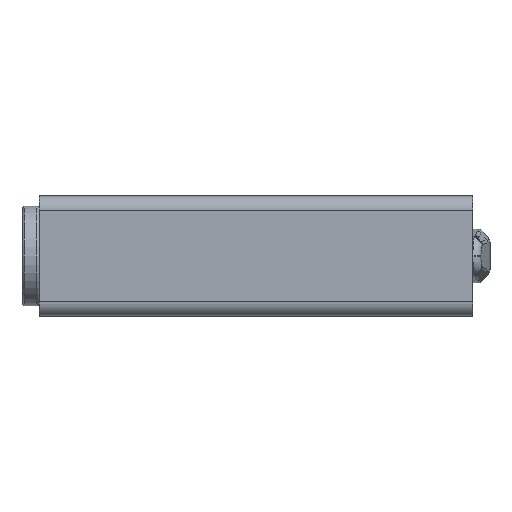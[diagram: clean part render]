
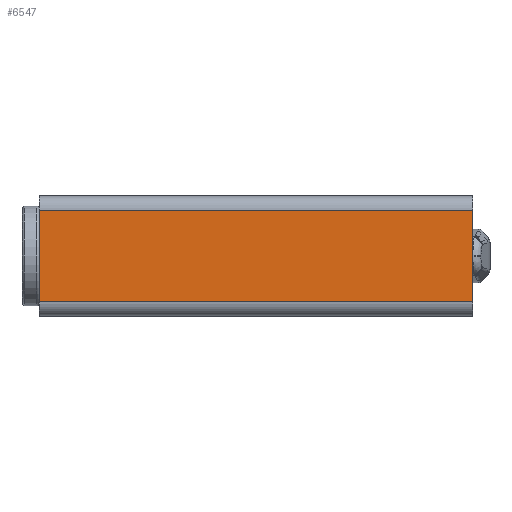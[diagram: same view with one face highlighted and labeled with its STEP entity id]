
A CAD part, front view. The second image highlights one B-rep face of the part: STEP entity #6547.
In plain terms, the highlighted planar face has unit normal (0, -1, 0).
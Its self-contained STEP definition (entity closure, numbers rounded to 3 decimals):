
#812 = EDGE_CURVE ( 'NONE', #89851, #82114, #32502, .T. ) ;
#2346 = LINE ( 'NONE', #2658, #53190 ) ;
#2658 = CARTESIAN_POINT ( 'NONE',  ( -36.154, 24.641, 3.707 ) ) ;
#6547 = ADVANCED_FACE ( 'NONE', ( #80476 ), #55515, .F. ) ;
#13326 = VECTOR ( 'NONE', #82465, 1000. ) ;
#16176 = CARTESIAN_POINT ( 'NONE',  ( -126.154, 24.641, 0.707 ) ) ;
#17968 = CARTESIAN_POINT ( 'NONE',  ( -36.154, 24.641, -18.293 ) ) ;
#19534 = DIRECTION ( 'NONE',  ( 0., 1., 0. ) ) ;
#20162 = CARTESIAN_POINT ( 'NONE',  ( -36.154, 24.641, 3.707 ) ) ;
#21575 = LINE ( 'NONE', #67700, #30656 ) ;
#25796 = CARTESIAN_POINT ( 'NONE',  ( -126.154, 24.641, 3.707 ) ) ;
#30656 = VECTOR ( 'NONE', #31781, 1000. ) ;
#31129 = VERTEX_POINT ( 'NONE', #16176 ) ;
#31781 = DIRECTION ( 'NONE',  ( -1., 0., 0. ) ) ;
#32502 = LINE ( 'NONE', #59852, #13326 ) ;
#35474 = ORIENTED_EDGE ( 'NONE', *, *, #53981, .T. ) ;
#37343 = LINE ( 'NONE', #25796, #90331 ) ;
#40345 = DIRECTION ( 'NONE',  ( 0., 0., -1. ) ) ;
#49599 = VERTEX_POINT ( 'NONE', #86956 ) ;
#50984 = AXIS2_PLACEMENT_3D ( 'NONE', #20162, #19534, #56773 ) ;
#52724 = EDGE_CURVE ( 'NONE', #49599, #82114, #2346, .T. ) ;
#53190 = VECTOR ( 'NONE', #53192, 1000. ) ;
#53192 = DIRECTION ( 'NONE',  ( 0., 0., -1. ) ) ;
#53667 = ORIENTED_EDGE ( 'NONE', *, *, #812, .T. ) ;
#53981 = EDGE_CURVE ( 'NONE', #31129, #89851, #37343, .T. ) ;
#55515 = PLANE ( 'NONE',  #50984 ) ;
#56773 = DIRECTION ( 'NONE',  ( 0., 0., 1. ) ) ;
#57870 = CARTESIAN_POINT ( 'NONE',  ( -126.154, 24.641, -18.293 ) ) ;
#59852 = CARTESIAN_POINT ( 'NONE',  ( -36.154, 24.641, -18.293 ) ) ;
#65155 = ORIENTED_EDGE ( 'NONE', *, *, #67702, .T. ) ;
#67700 = CARTESIAN_POINT ( 'NONE',  ( -36.154, 24.641, 0.707 ) ) ;
#67702 = EDGE_CURVE ( 'NONE', #49599, #31129, #21575, .T. ) ;
#80476 = FACE_OUTER_BOUND ( 'NONE', #92728, .T. ) ;
#82114 = VERTEX_POINT ( 'NONE', #17968 ) ;
#82465 = DIRECTION ( 'NONE',  ( 1., 0., 0. ) ) ;
#85722 = ORIENTED_EDGE ( 'NONE', *, *, #52724, .F. ) ;
#86956 = CARTESIAN_POINT ( 'NONE',  ( -36.154, 24.641, 0.707 ) ) ;
#89851 = VERTEX_POINT ( 'NONE', #57870 ) ;
#90331 = VECTOR ( 'NONE', #40345, 1000. ) ;
#92728 = EDGE_LOOP ( 'NONE', ( #35474, #53667, #85722, #65155 ) ) ;
